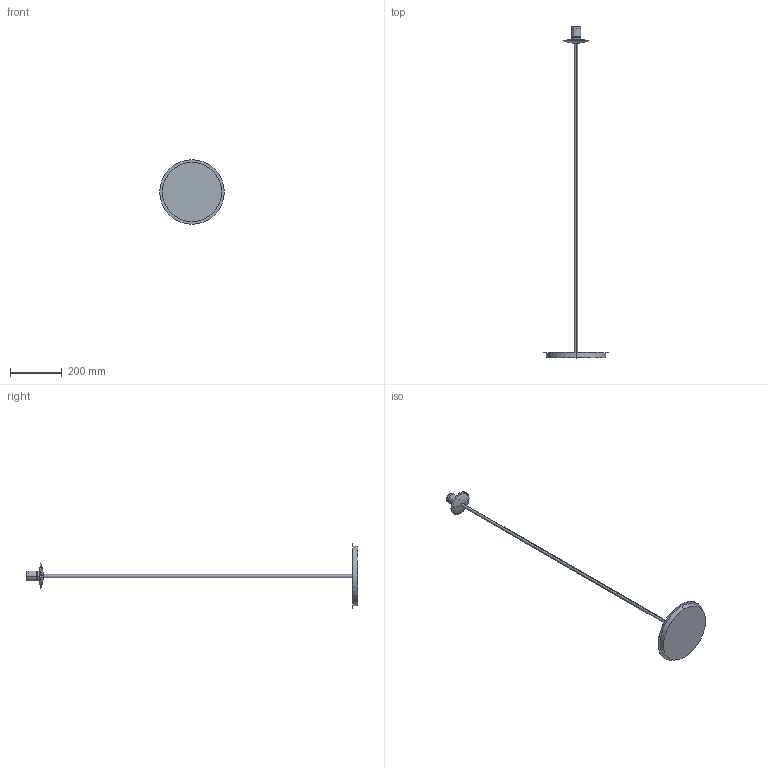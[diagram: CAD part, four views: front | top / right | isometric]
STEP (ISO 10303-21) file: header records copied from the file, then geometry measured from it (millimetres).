
FILE_DESCRIPTION (( 'STEP AP203' ), '1' );
FILE_NAME ('PARMA MESA - PIE SIN TULIPA.STEP', '2026-02-13T12:41:30', ( '' ), ( '' ), 'SwSTEP 2.0', 'SolidWorks 2025', '' );
FILE_SCHEMA (( 'CONFIG_CONTROL_DESIGN' ));
Length unit declared in the file: millimetre
Products named in the file (5): PARMA MESA - PIE ESTRUCTURA_PARMA PIE; BaseParmaConCasquillo; PARMA MESA - PIE SIN TULIPA; Portalamparas E27 Parma; Base Parma Shifa
Assembly tree (4 placements, depth 3):
  PARMA MESA - PIE SIN TULIPA
    PARMA MESA - PIE ESTRUCTURA_PARMA PIE
    BaseParmaConCasquillo
      Base Parma Shifa
      Portalamparas E27 Parma
Bounding box: 250 x 1288.45 x 250 mm (x, y, z)
Volume: 1084147.5 mm3; surface area: 190214.8 mm2
Topology: 3 solids, 3 shells, 70 faces, 151 edges, 94 vertices
Faces by surface type: cylinder 41, plane 15, torus 8, bspline 4, cone 2
Entity records: 3613 total; most frequent: CARTESIAN_POINT 1599, DIRECTION 341, ORIENTED_EDGE 302, EDGE_CURVE 151, AXIS2_PLACEMENT_3D 149, VERTEX_POINT 94, EDGE_LOOP 81, CIRCLE 75
